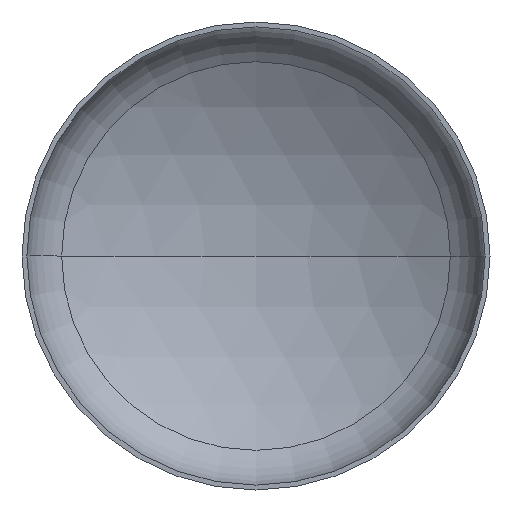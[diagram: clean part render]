
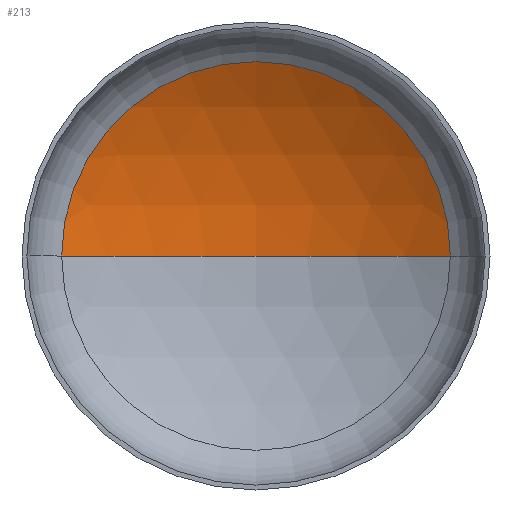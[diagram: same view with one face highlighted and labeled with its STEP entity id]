
A CAD part, front view. The second image highlights one B-rep face of the part: STEP entity #213.
In plain terms, the highlighted spherical face has radius 3600 mm.
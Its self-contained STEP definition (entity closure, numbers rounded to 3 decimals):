
#3 = CARTESIAN_POINT ( 'NONE',  ( 0., 744.024, 0. ) ) ;
#9 = CARTESIAN_POINT ( 'NONE',  ( 0., -2332.934, 0. ) ) ;
#11 = VERTEX_POINT ( 'NONE', #350 ) ;
#13 = AXIS2_PLACEMENT_3D ( 'NONE', #137, #145, #102 ) ;
#31 = VERTEX_POINT ( 'NONE', #275 ) ;
#41 = EDGE_LOOP ( 'NONE', ( #135, #88, #75 ) ) ;
#44 = AXIS2_PLACEMENT_3D ( 'NONE', #215, #258, #255 ) ;
#48 = AXIS2_PLACEMENT_3D ( 'NONE', #9, #284, #110 ) ;
#50 = AXIS2_PLACEMENT_3D ( 'NONE', #3, #395, #329 ) ;
#75 = ORIENTED_EDGE ( 'NONE', *, *, #136, .T. ) ;
#88 = ORIENTED_EDGE ( 'NONE', *, *, #151, .T. ) ;
#102 = DIRECTION ( 'NONE',  ( 1., 0., 0. ) ) ;
#110 = DIRECTION ( 'NONE',  ( -1., 0., 0. ) ) ;
#135 = ORIENTED_EDGE ( 'NONE', *, *, #360, .F. ) ;
#136 = EDGE_CURVE ( 'NONE', #384, #31, #164, .T. ) ;
#137 = CARTESIAN_POINT ( 'NONE',  ( 0., -2332.934, 0. ) ) ;
#145 = DIRECTION ( 'NONE',  ( 0., 0., 1. ) ) ;
#151 = EDGE_CURVE ( 'NONE', #11, #384, #407, .T. ) ;
#164 = CIRCLE ( 'NONE', #50, 1868.778 ) ;
#172 = CARTESIAN_POINT ( 'NONE',  ( 1868.778, 744.024, 0. ) ) ;
#213 = ADVANCED_FACE ( 'NONE', ( #221 ), #344, .F. ) ;
#215 = CARTESIAN_POINT ( 'NONE',  ( 0., -2332.934, 0. ) ) ;
#221 = FACE_OUTER_BOUND ( 'NONE', #41, .T. ) ;
#255 = DIRECTION ( 'NONE',  ( -1., 0., 0. ) ) ;
#258 = DIRECTION ( 'NONE',  ( 0., 0., -1. ) ) ;
#275 = CARTESIAN_POINT ( 'NONE',  ( -1868.778, 744.024, 0. ) ) ;
#284 = DIRECTION ( 'NONE',  ( 0., 0., -1. ) ) ;
#319 = CIRCLE ( 'NONE', #13, 3600. ) ;
#329 = DIRECTION ( 'NONE',  ( 1., 0., 0. ) ) ;
#344 = SPHERICAL_SURFACE ( 'NONE', #44, 3600. ) ;
#350 = CARTESIAN_POINT ( 'NONE',  ( 0., 1267.066, 0. ) ) ;
#360 = EDGE_CURVE ( 'NONE', #11, #31, #319, .T. ) ;
#384 = VERTEX_POINT ( 'NONE', #172 ) ;
#395 = DIRECTION ( 'NONE',  ( 0., -1., 0. ) ) ;
#407 = CIRCLE ( 'NONE', #48, 3600. ) ;
